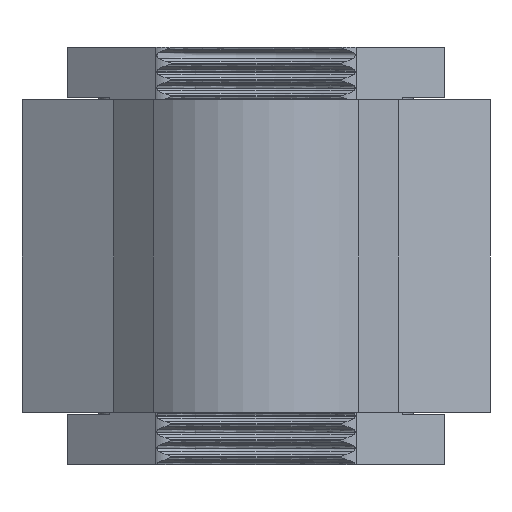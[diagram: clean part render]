
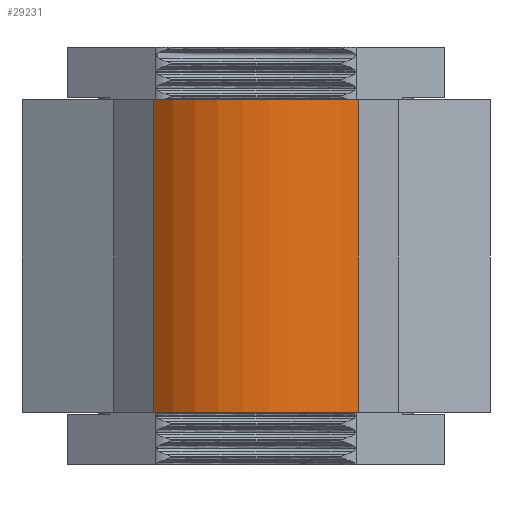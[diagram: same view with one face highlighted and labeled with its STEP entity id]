
A CAD part, front view. The second image highlights one B-rep face of the part: STEP entity #29231.
In plain terms, the highlighted cylindrical face has radius 8.7 mm (diameter 17.4 mm), a partial arc.
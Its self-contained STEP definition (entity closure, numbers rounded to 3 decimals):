
#11357 = CARTESIAN_POINT ( 'NONE',  ( 9.902, -2.331, 18.7 ) ) ;
#11358 = DIRECTION ( 'NONE',  ( 1., 0., 0. ) ) ;
#11359 = DIRECTION ( 'NONE',  ( 0., 0., 1. ) ) ;
#11360 = CARTESIAN_POINT ( 'NONE',  ( 3.75, 3.821, 18.7 ) ) ;
#11361 = AXIS2_PLACEMENT_3D ( 'NONE', #11360, #11359, #11358 ) ;
#11362 = CIRCLE ( 'NONE', #11361, 8.7 ) ;
#11363 = CARTESIAN_POINT ( 'NONE',  ( -2.402, -2.331, 18.7 ) ) ;
#11419 = CARTESIAN_POINT ( 'NONE',  ( -2.402, -2.331, 0. ) ) ;
#11420 = DIRECTION ( 'NONE',  ( 1., 0., 0. ) ) ;
#11421 = DIRECTION ( 'NONE',  ( 0., 0., 1. ) ) ;
#11422 = CARTESIAN_POINT ( 'NONE',  ( 3.75, 3.821, 0. ) ) ;
#11423 = AXIS2_PLACEMENT_3D ( 'NONE', #11422, #11421, #11420 ) ;
#11424 = CIRCLE ( 'NONE', #11423, 8.7 ) ;
#11425 = CARTESIAN_POINT ( 'NONE',  ( 9.902, -2.331, 0. ) ) ;
#11474 = DIRECTION ( 'NONE',  ( 0., 0., -1. ) ) ;
#11475 = VECTOR ( 'NONE', #11474, 1000. ) ;
#11476 = CARTESIAN_POINT ( 'NONE',  ( 9.902, -2.331, 18.7 ) ) ;
#11477 = LINE ( 'NONE', #11476, #11475 ) ;
#11478 = DIRECTION ( 'NONE',  ( -1., 0., 0. ) ) ;
#11479 = DIRECTION ( 'NONE',  ( 0., 0., -1. ) ) ;
#11480 = CARTESIAN_POINT ( 'NONE',  ( 3.75, 3.821, 18.7 ) ) ;
#11481 = AXIS2_PLACEMENT_3D ( 'NONE', #11480, #11479, #11478 ) ;
#11482 = CYLINDRICAL_SURFACE ( 'NONE', #11481, 8.7 ) ;
#11483 = FACE_OUTER_BOUND ( 'NONE', #29232, .T. ) ;
#11574 = DIRECTION ( 'NONE',  ( 0., 0., -1. ) ) ;
#11575 = VECTOR ( 'NONE', #11574, 1000. ) ;
#11576 = CARTESIAN_POINT ( 'NONE',  ( -2.402, -2.331, 18.7 ) ) ;
#11580 = LINE ( 'NONE', #11576, #11575 ) ;
#29151 = VERTEX_POINT ( 'NONE', #11363 ) ;
#29153 = EDGE_CURVE ( 'NONE', #29151, #29154, #11362, .T. ) ;
#29154 = VERTEX_POINT ( 'NONE', #11357 ) ;
#29189 = VERTEX_POINT ( 'NONE', #11425 ) ;
#29191 = EDGE_CURVE ( 'NONE', #29192, #29189, #11424, .T. ) ;
#29192 = VERTEX_POINT ( 'NONE', #11419 ) ;
#29231 = ADVANCED_FACE ( 'NONE', ( #11483 ), #11482, .T. ) ;
#29232 = EDGE_LOOP ( 'NONE', ( #29233, #29234, #29236, #29237 ) ) ;
#29233 = ORIENTED_EDGE ( 'NONE', *, *, #29191, .T. ) ;
#29234 = ORIENTED_EDGE ( 'NONE', *, *, #29235, .F. ) ;
#29235 = EDGE_CURVE ( 'NONE', #29154, #29189, #11477, .T. ) ;
#29236 = ORIENTED_EDGE ( 'NONE', *, *, #29153, .F. ) ;
#29237 = ORIENTED_EDGE ( 'NONE', *, *, #29293, .T. ) ;
#29293 = EDGE_CURVE ( 'NONE', #29151, #29192, #11580, .T. ) ;
